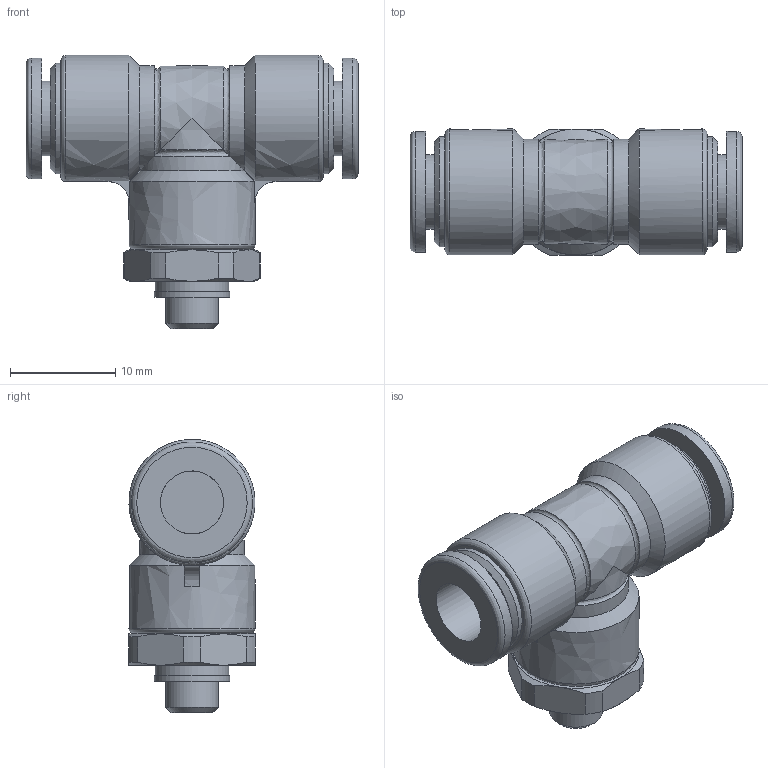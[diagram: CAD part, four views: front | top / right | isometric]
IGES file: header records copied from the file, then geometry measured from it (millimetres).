
Global section: file name: [04] FS6-M5MT FS6-M5MTW; native system: Autodesk Inventor 2014; preprocessor: unknown; author: kazuhiro.t; date: 20130806.165350; units: millimetre
Bounding box: 31.6 x 12 x 26 mm (x, y, z)
Volume: 3639.9 mm3; surface area: 2631.7 mm2
Topology: 1 solids, 1 shells, 90 faces, 212 edges, 136 vertices
Faces by surface type: bspline 90
